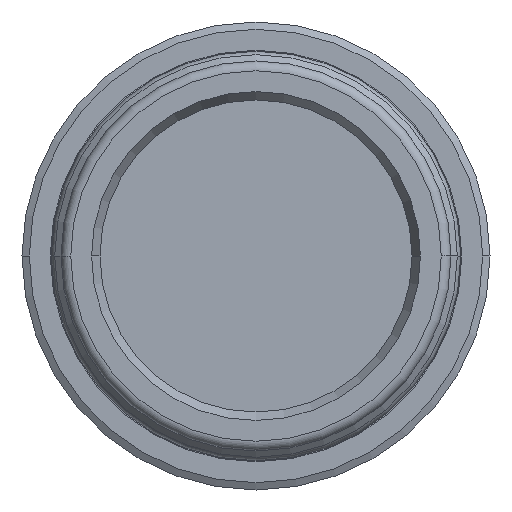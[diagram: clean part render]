
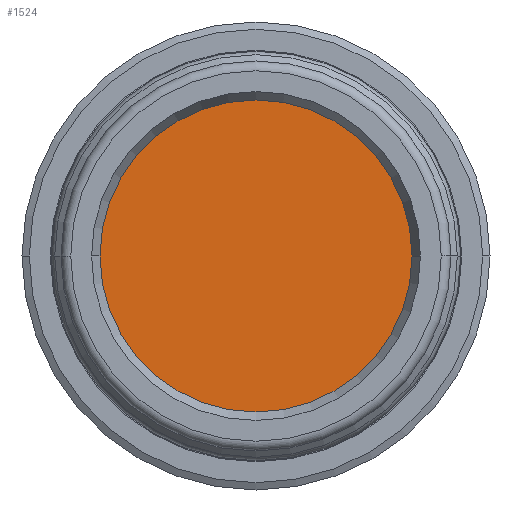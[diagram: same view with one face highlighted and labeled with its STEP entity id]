
A CAD part, front view. The second image highlights one B-rep face of the part: STEP entity #1524.
In plain terms, the highlighted planar face has unit normal (0, -1, 0).
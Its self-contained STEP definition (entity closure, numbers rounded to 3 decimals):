
#856 = DIRECTION ( 'NONE',  ( 0., 0., -1. ) ) ;
#1186 = AXIS2_PLACEMENT_3D ( 'NONE', #3293, #9275, #10254 ) ;
#1438 = ORIENTED_EDGE ( 'NONE', *, *, #7648, .T. ) ;
#1524 = ADVANCED_FACE ( 'NONE', ( #3851 ), #5973, .T. ) ;
#2833 = ORIENTED_EDGE ( 'NONE', *, *, #2971, .T. ) ;
#2971 = EDGE_CURVE ( 'NONE', #3177, #8745, #11045, .T. ) ;
#3177 = VERTEX_POINT ( 'NONE', #6888 ) ;
#3293 = CARTESIAN_POINT ( 'NONE',  ( 0., 0., 0. ) ) ;
#3851 = FACE_OUTER_BOUND ( 'NONE', #9143, .T. ) ;
#5973 = PLANE ( 'NONE',  #7920 ) ;
#6075 = CARTESIAN_POINT ( 'NONE',  ( 0., 0., 0. ) ) ;
#6339 = CARTESIAN_POINT ( 'NONE',  ( 0., 0., 16. ) ) ;
#6888 = CARTESIAN_POINT ( 'NONE',  ( 0., 0., -16. ) ) ;
#6900 = CIRCLE ( 'NONE', #10498, 16. ) ;
#7648 = EDGE_CURVE ( 'NONE', #8745, #3177, #6900, .T. ) ;
#7920 = AXIS2_PLACEMENT_3D ( 'NONE', #6075, #8626, #856 ) ;
#8541 = DIRECTION ( 'NONE',  ( 0., 0., -1. ) ) ;
#8583 = CARTESIAN_POINT ( 'NONE',  ( 0., 0., 0. ) ) ;
#8626 = DIRECTION ( 'NONE',  ( 0., -1., 0. ) ) ;
#8689 = DIRECTION ( 'NONE',  ( 0., -1., 0. ) ) ;
#8745 = VERTEX_POINT ( 'NONE', #6339 ) ;
#9143 = EDGE_LOOP ( 'NONE', ( #2833, #1438 ) ) ;
#9275 = DIRECTION ( 'NONE',  ( 0., -1., 0. ) ) ;
#10254 = DIRECTION ( 'NONE',  ( 0., 0., -1. ) ) ;
#10498 = AXIS2_PLACEMENT_3D ( 'NONE', #8583, #8689, #8541 ) ;
#11045 = CIRCLE ( 'NONE', #1186, 16. ) ;
